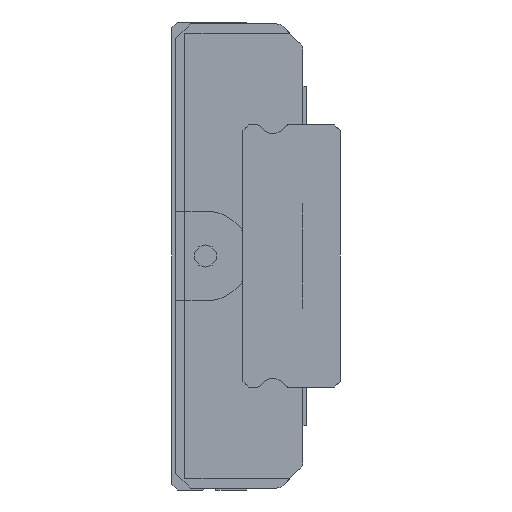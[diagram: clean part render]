
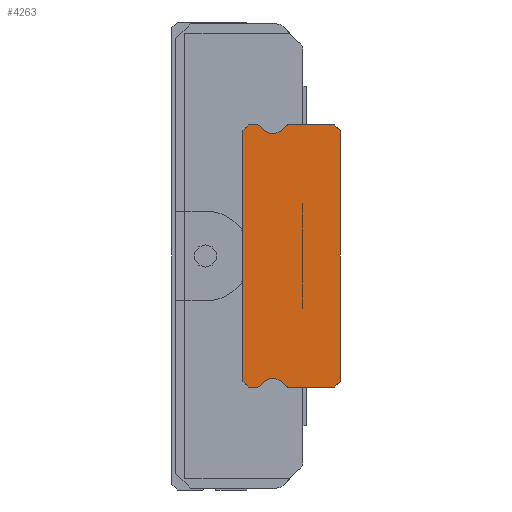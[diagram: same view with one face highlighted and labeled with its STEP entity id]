
A CAD part, left-side view. The second image highlights one B-rep face of the part: STEP entity #4263.
In plain terms, the highlighted planar face has unit normal (-1, 0, 0).
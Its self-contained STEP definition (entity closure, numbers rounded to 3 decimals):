
#38=CIRCLE('',#4527,0.8);
#42=CIRCLE('',#4556,0.8);
#67=CIRCLE('',#4599,0.15);
#68=CIRCLE('',#4602,0.15);
#69=CIRCLE('',#4608,0.15);
#70=CIRCLE('',#4611,0.15);
#677=ORIENTED_EDGE('',*,*,#1669,.F.);
#678=ORIENTED_EDGE('',*,*,#1706,.F.);
#679=ORIENTED_EDGE('',*,*,#1683,.F.);
#680=ORIENTED_EDGE('',*,*,#1694,.F.);
#681=ORIENTED_EDGE('',*,*,#1691,.F.);
#682=ORIENTED_EDGE('',*,*,#1565,.T.);
#683=ORIENTED_EDGE('',*,*,#1689,.F.);
#684=ORIENTED_EDGE('',*,*,#1686,.F.);
#685=ORIENTED_EDGE('',*,*,#1538,.F.);
#686=ORIENTED_EDGE('',*,*,#1741,.F.);
#687=ORIENTED_EDGE('',*,*,#1630,.F.);
#688=ORIENTED_EDGE('',*,*,#1680,.F.);
#689=ORIENTED_EDGE('',*,*,#1677,.F.);
#690=ORIENTED_EDGE('',*,*,#1610,.T.);
#691=ORIENTED_EDGE('',*,*,#1675,.F.);
#692=ORIENTED_EDGE('',*,*,#1672,.F.);
#1538=EDGE_CURVE('',#2105,#2106,#2536,.T.);
#1565=EDGE_CURVE('',#2127,#2126,#38,.T.);
#1610=EDGE_CURVE('',#2158,#2157,#42,.T.);
#1630=EDGE_CURVE('',#2172,#2173,#2592,.T.);
#1669=EDGE_CURVE('',#2205,#2206,#2608,.T.);
#1672=EDGE_CURVE('',#2206,#2208,#2611,.T.);
#1675=EDGE_CURVE('',#2208,#2157,#67,.T.);
#1677=EDGE_CURVE('',#2158,#2210,#68,.T.);
#1680=EDGE_CURVE('',#2210,#2172,#2615,.T.);
#1683=EDGE_CURVE('',#2212,#2213,#2618,.T.);
#1686=EDGE_CURVE('',#2106,#2215,#2621,.T.);
#1689=EDGE_CURVE('',#2215,#2126,#69,.T.);
#1691=EDGE_CURVE('',#2127,#2217,#70,.T.);
#1694=EDGE_CURVE('',#2217,#2212,#2625,.T.);
#1706=EDGE_CURVE('',#2213,#2205,#2626,.T.);
#1741=EDGE_CURVE('',#2173,#2105,#2627,.T.);
#2105=VERTEX_POINT('',#6381);
#2106=VERTEX_POINT('',#6383);
#2126=VERTEX_POINT('',#6434);
#2127=VERTEX_POINT('',#6436);
#2157=VERTEX_POINT('',#6521);
#2158=VERTEX_POINT('',#6523);
#2172=VERTEX_POINT('',#6561);
#2173=VERTEX_POINT('',#6563);
#2205=VERTEX_POINT('',#6638);
#2206=VERTEX_POINT('',#6640);
#2208=VERTEX_POINT('',#6646);
#2210=VERTEX_POINT('',#6655);
#2212=VERTEX_POINT('',#6664);
#2213=VERTEX_POINT('',#6666);
#2215=VERTEX_POINT('',#6672);
#2217=VERTEX_POINT('',#6681);
#2536=LINE('',#6382,#2874);
#2592=LINE('',#6562,#2930);
#2608=LINE('',#6639,#2946);
#2611=LINE('',#6645,#2949);
#2615=LINE('',#6659,#2953);
#2618=LINE('',#6665,#2956);
#2621=LINE('',#6671,#2959);
#2625=LINE('',#6685,#2963);
#2626=LINE('',#6709,#2964);
#2627=LINE('',#6779,#2965);
#2874=VECTOR('',#5037,1000.);
#2930=VECTOR('',#5207,1000.);
#2946=VECTOR('',#5279,1000.);
#2949=VECTOR('',#5284,1000.);
#2953=VECTOR('',#5302,1000.);
#2956=VECTOR('',#5307,1000.);
#2959=VECTOR('',#5312,1000.);
#2963=VECTOR('',#5330,1000.);
#2964=VECTOR('',#5355,1000.);
#2965=VECTOR('',#5426,1000.);
#3298=EDGE_LOOP('',(#677,#678,#679,#680,#681,#682,#683,#684,#685,#686,#687,
#688,#689,#690,#691,#692));
#3738=FACE_BOUND('',#3298,.T.);
#4098=PLANE('',#4661);
#4263=ADVANCED_FACE('',(#3738),#4098,.F.);
#4527=AXIS2_PLACEMENT_3D('',#6435,#5085,#5086);
#4556=AXIS2_PLACEMENT_3D('',#6522,#5170,#5171);
#4599=AXIS2_PLACEMENT_3D('',#6650,#5290,#5291);
#4602=AXIS2_PLACEMENT_3D('',#6654,#5296,#5297);
#4608=AXIS2_PLACEMENT_3D('',#6676,#5318,#5319);
#4611=AXIS2_PLACEMENT_3D('',#6680,#5324,#5325);
#4661=AXIS2_PLACEMENT_3D('',#6782,#5430,#5431);
#5037=DIRECTION('',(0.,0.707,-0.707));
#5085=DIRECTION('',(1.,0.,0.));
#5086=DIRECTION('',(0.,0.,-1.));
#5170=DIRECTION('',(1.,0.,0.));
#5171=DIRECTION('',(0.,0.,-1.));
#5207=DIRECTION('',(0.,-0.707,-0.707));
#5279=DIRECTION('',(0.,-0.707,0.707));
#5284=DIRECTION('',(0.,-1.,0.));
#5290=DIRECTION('',(1.,0.,0.));
#5291=DIRECTION('',(0.,0.,-1.));
#5296=DIRECTION('',(1.,0.,0.));
#5297=DIRECTION('',(0.,0.,-1.));
#5302=DIRECTION('',(0.,-1.,0.));
#5307=DIRECTION('',(0.,0.707,0.707));
#5312=DIRECTION('',(0.,1.,0.));
#5318=DIRECTION('',(1.,0.,0.));
#5319=DIRECTION('',(0.,0.,-1.));
#5324=DIRECTION('',(1.,0.,0.));
#5325=DIRECTION('',(0.,0.,-1.));
#5330=DIRECTION('',(0.,1.,0.));
#5355=DIRECTION('',(0.,0.,1.));
#5426=DIRECTION('',(0.,0.,-1.));
#5430=DIRECTION('',(1.,0.,0.));
#5431=DIRECTION('',(0.,0.,-1.));
#6381=CARTESIAN_POINT('',(-5.,0.,-6.7));
#6382=CARTESIAN_POINT('',(-5.,0.,-6.7));
#6383=CARTESIAN_POINT('',(-5.,0.3,-7.));
#6434=CARTESIAN_POINT('',(-5.,2.92,-6.929));
#6435=CARTESIAN_POINT('',(-5.,3.6,-7.35));
#6436=CARTESIAN_POINT('',(-5.,4.28,-6.929));
#6521=CARTESIAN_POINT('',(-5.,4.28,6.929));
#6522=CARTESIAN_POINT('',(-5.,3.6,7.35));
#6523=CARTESIAN_POINT('',(-5.,2.92,6.929));
#6561=CARTESIAN_POINT('',(-5.,0.3,7.));
#6562=CARTESIAN_POINT('',(-5.,0.3,7.));
#6563=CARTESIAN_POINT('',(-5.,0.,6.7));
#6638=CARTESIAN_POINT('',(-5.,5.2,6.7));
#6639=CARTESIAN_POINT('',(-5.,5.2,6.7));
#6640=CARTESIAN_POINT('',(-5.,4.9,7.));
#6645=CARTESIAN_POINT('',(-5.,4.9,7.));
#6646=CARTESIAN_POINT('',(-5.,4.408,7.));
#6650=CARTESIAN_POINT('',(-5.,4.408,6.85));
#6654=CARTESIAN_POINT('',(-5.,2.792,6.85));
#6655=CARTESIAN_POINT('',(-5.,2.792,7.));
#6659=CARTESIAN_POINT('',(-5.,2.792,7.));
#6664=CARTESIAN_POINT('',(-5.,4.9,-7.));
#6665=CARTESIAN_POINT('',(-5.,4.9,-7.));
#6666=CARTESIAN_POINT('',(-5.,5.2,-6.7));
#6671=CARTESIAN_POINT('',(-5.,0.3,-7.));
#6672=CARTESIAN_POINT('',(-5.,2.792,-7.));
#6676=CARTESIAN_POINT('',(-5.,2.792,-6.85));
#6680=CARTESIAN_POINT('',(-5.,4.408,-6.85));
#6681=CARTESIAN_POINT('',(-5.,4.408,-7.));
#6685=CARTESIAN_POINT('',(-5.,4.408,-7.));
#6709=CARTESIAN_POINT('',(-5.,5.2,-6.7));
#6779=CARTESIAN_POINT('',(-5.,0.,6.7));
#6782=CARTESIAN_POINT('',(-5.,4.408,6.85));
